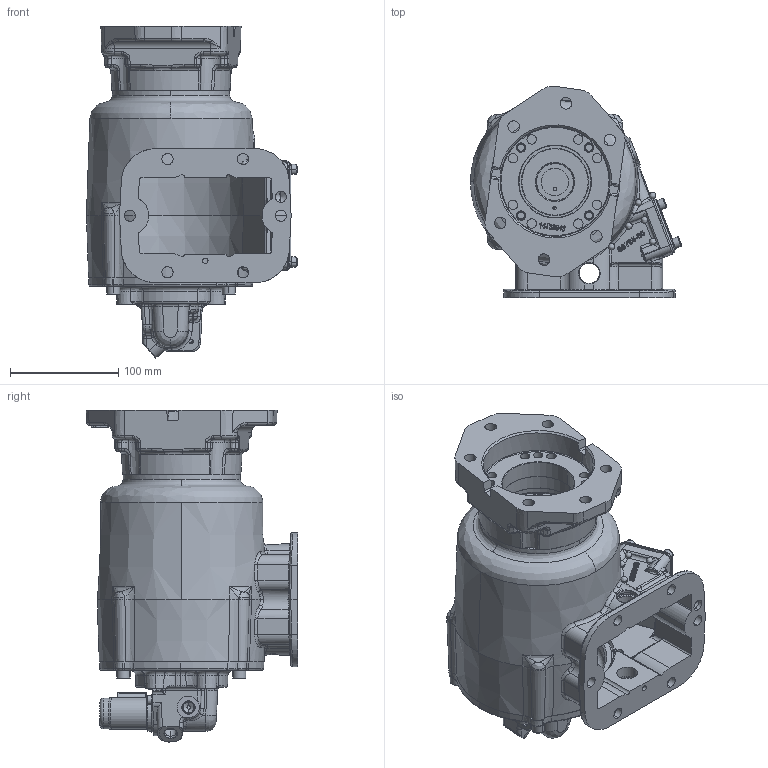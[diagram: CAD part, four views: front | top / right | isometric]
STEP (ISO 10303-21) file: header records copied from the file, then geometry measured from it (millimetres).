
FILE_DESCRIPTION (( 'STEP AP203' ), '1' );
FILE_NAME ('CS6S-XXXXX-S3ZX.STEP', '2023-05-30T20:06:37', ( '' ), ( '' ), 'SwSTEP 2.0', 'SolidWorks 2021', '' );
FILE_SCHEMA (( 'CONFIG_CONTROL_DESIGN' ));
Length unit declared in the file: inch
Products named in the file (9): 01T37072; 16T41119; CS6S-XXXXX-S3ZX; 15T41597; 35T40860-2; 19T41118; 19T35237; 19T40859; 14T38343
Assembly tree (15 placements, depth 2):
  CS6S-XXXXX-S3ZX
    01T37072
    16T41119
    19T35237  x4
    19T41118  x4
    15T41597
    35T40860-2
    19T40859  x2
    14T38343
Bounding box: 195.33 x 195.56 x 307.11 mm (x, y, z)
Volume: 1494617 mm3; surface area: 420189 mm2
Topology: 16 solids, 16 shells, 2572 faces, 6573 edges, 4052 vertices
Faces by surface type: bspline 967, plane 630, cylinder 587, cone 236, torus 130, sphere 22
Entity records: 164406 total; most frequent: CARTESIAN_POINT 112284, ORIENTED_EDGE 12220, DIRECTION 7897, EDGE_CURVE 6110, VERTEX_POINT 3837, AXIS2_PLACEMENT_3D 2825, EDGE_LOOP 2661, FACE_OUTER_BOUND 2419
